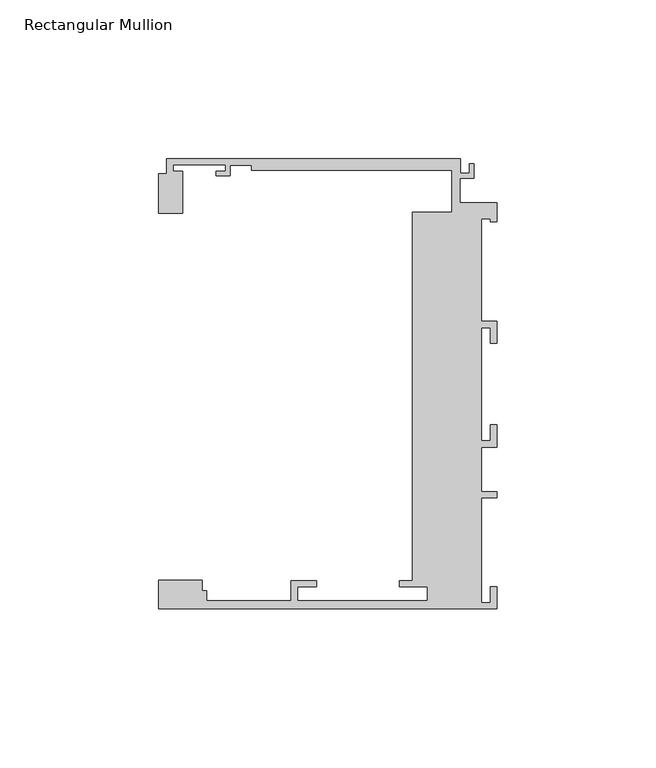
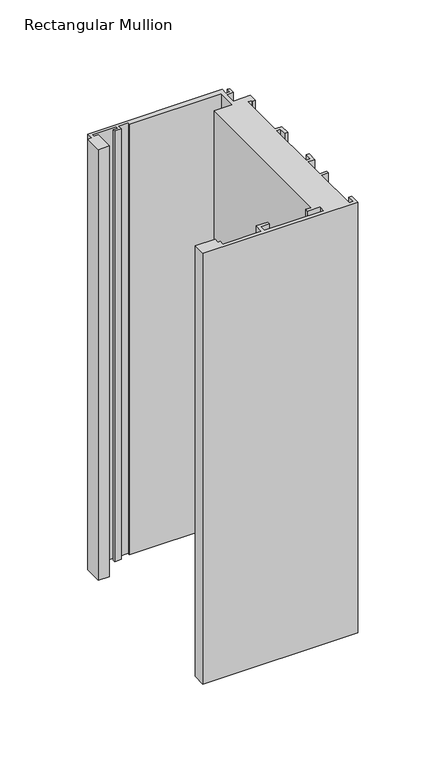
"""IFC4 building model written with IfcOpenShell, lengths in millimetres: member geometry, Rectangular Mullion : Danpal_K12_End-Mullion_B1."""

from ifc_helpers import new_model, si_unit, frame, origin, place, context, project, spatial, polyline, outline, extrude, source, transform, mapped, element, save


def rectangular_mullion_7adac3f0(model_context):
    return source(origin(), model_context, "Body", "SweptSolid", [
        extrude(outline(polyline([(-26.6209612, -117.8676658), (-26.6209612, -1.9446289), (-14.1055875, -1.9446289), (-14.1055875, 11.3051512), (-77.1531178, 11.3051512), (-77.1531178, 12.8051513), (-83.8999976, 12.8051513), (-83.8999976, 9.5051512), (-88.3999976, 9.5051512), (-88.3999976, 11.0051513), (-85.3999976, 11.0051513), (-85.3999976, 13.0051512), (-101.8999976, 13.0051512), (-101.8999976, 11.0051513), (-98.8999976, 11.0051513), (-98.8999976, -2.316674), (-106.4117426, -2.316674), (-106.4117426, 10.065304), (-103.8999976, 10.065304), (-103.8999976, 14.8051514), (-11.4019537, 14.8051514), (-11.4019537, 10.3006425), (-8.6518595, 10.3006425), (-8.6518595, 13.3051514), (-7.1518595, 13.3051514), (-7.1518595, 8.8006425), (-11.6055875, 8.8006425), (-11.6055875, 1.0551514), (0.0, 1.0551514), (0.0, -4.9448486), (-2.0, -4.9448486), (-2.0, -3.9448486), (-4.8, -3.9448486), (-4.8, -36.2443486), (0.0, -36.2443486), (0.0, -43.2443486), (-2.0, -43.2443486), (-2.0, -38.2443486), (-4.8, -38.2443486), (-4.8, -73.8676657), (-2.0, -73.8676657), (-2.0, -68.8676657), (0.0, -68.8676657), (0.0, -75.867683), (-4.8, -75.867683), (-4.8, -89.8676485), (0.0, -89.8676485), (0.0, -91.8676485), (-4.8, -91.8676485), (-4.8, -124.7676657), (-2.0, -124.7676657), (-2.0, -119.7676657), (0.0, -119.7676657), (0.0, -126.7676657), (-106.4117426, -126.7676657), (-106.4117426, -117.6986749), (-92.8228167, -117.6986749), (-92.8228167, -121.0676175), (-91.2900275, -121.0676175), (-91.2900275, -124.2676658), (-64.7350275, -124.2676658), (-64.7350275, -117.8676658), (-56.7350275, -117.8676658), (-56.7350275, -119.8676658), (-62.7350275, -119.8676658), (-62.7350275, -124.2676658), (-21.835, -124.2676658), (-21.835, -119.8676658), (-30.6, -119.8676658), (-30.6, -117.8676658), (-26.6209612, -117.8676658)])), frame((0.0, 0.0, -312.970611), z_axis=(0.0, 0.0, 1.0), x_axis=(1.0, 0.0, 0.0)), (0.0, 0.0, 1.0), 312.970611),
    ])


if __name__ == "__main__":
    model = new_model("IFC4")
    model_context = context("Model", 3, world=origin())
    ifc_project = project(units=[si_unit("LENGTHUNIT", "METRE", prefix="MILLI")], contexts=[model_context])
    site = spatial("IfcSite", under=ifc_project)
    building = spatial("IfcBuilding", under=site)
    placement = place(None, origin())
    rectangular_mullion_shape = rectangular_mullion_7adac3f0(model_context)
    element("IfcMember", 1, ObjectType="Rectangular Mullion : Danpal_K12_End-Mullion_B1", at=placement, inside=building, context=model_context, shape_type="MappedRepresentation", body=[
        mapped(rectangular_mullion_shape, transform((0.0, 0.0, 0.0), x_axis=(1.0, 0.0, 0.0), y_axis=(0.0, 1.0, 0.0), z_axis=(0.0, 0.0, 1.0))),
    ])
    save(model, "model.ifc")
